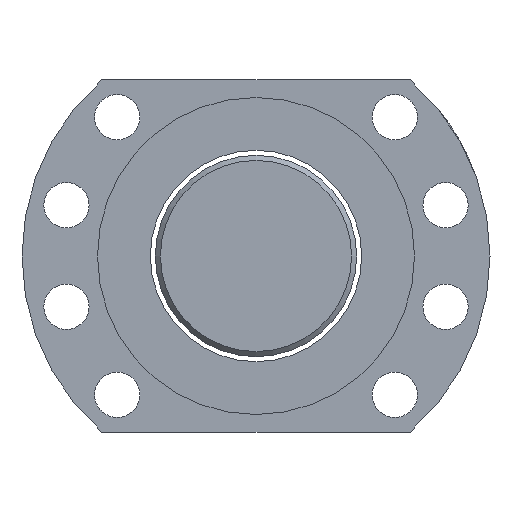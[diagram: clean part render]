
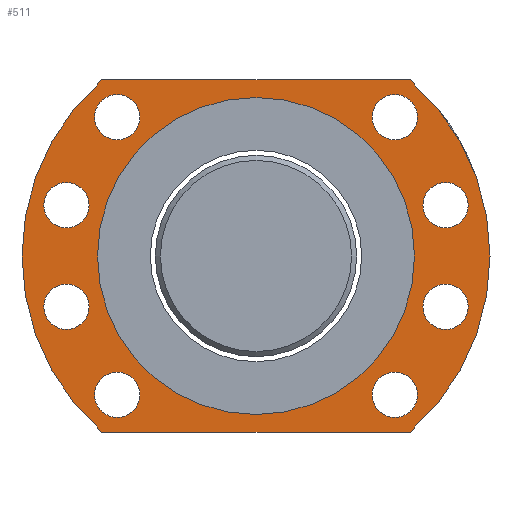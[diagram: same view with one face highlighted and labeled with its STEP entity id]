
A CAD part, left-side view. The second image highlights one B-rep face of the part: STEP entity #511.
In plain terms, the highlighted planar face has unit normal (-1, 0, 0).
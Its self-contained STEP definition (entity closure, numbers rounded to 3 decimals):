
#61=LINE('',#893,#69);
#62=LINE('',#894,#70);
#69=VECTOR('',#726,1000.);
#70=VECTOR('',#727,1000.);
#81=PLANE('',#600);
#149=ORIENTED_EDGE('',*,*,#228,.T.);
#150=ORIENTED_EDGE('',*,*,#230,.F.);
#151=ORIENTED_EDGE('',*,*,#234,.T.);
#152=ORIENTED_EDGE('',*,*,#245,.F.);
#153=ORIENTED_EDGE('',*,*,#250,.T.);
#154=ORIENTED_EDGE('',*,*,#251,.T.);
#155=ORIENTED_EDGE('',*,*,#220,.T.);
#156=ORIENTED_EDGE('',*,*,#252,.T.);
#157=ORIENTED_EDGE('',*,*,#242,.F.);
#158=ORIENTED_EDGE('',*,*,#240,.F.);
#159=ORIENTED_EDGE('',*,*,#238,.F.);
#160=ORIENTED_EDGE('',*,*,#236,.T.);
#161=ORIENTED_EDGE('',*,*,#232,.T.);
#220=EDGE_CURVE('',#272,#274,#317,.T.);
#228=EDGE_CURVE('',#282,#282,#321,.T.);
#230=EDGE_CURVE('',#284,#284,#323,.T.);
#232=EDGE_CURVE('',#286,#286,#325,.T.);
#234=EDGE_CURVE('',#288,#288,#327,.T.);
#236=EDGE_CURVE('',#290,#290,#329,.T.);
#238=EDGE_CURVE('',#292,#292,#331,.T.);
#240=EDGE_CURVE('',#294,#294,#333,.T.);
#242=EDGE_CURVE('',#296,#296,#335,.T.);
#245=EDGE_CURVE('',#299,#299,#338,.T.);
#250=EDGE_CURVE('',#304,#305,#342,.T.);
#251=EDGE_CURVE('',#305,#272,#61,.T.);
#252=EDGE_CURVE('',#274,#304,#62,.T.);
#272=VERTEX_POINT('',#783);
#274=VERTEX_POINT('',#787);
#282=VERTEX_POINT('',#825);
#284=VERTEX_POINT('',#830);
#286=VERTEX_POINT('',#835);
#288=VERTEX_POINT('',#840);
#290=VERTEX_POINT('',#845);
#292=VERTEX_POINT('',#850);
#294=VERTEX_POINT('',#855);
#296=VERTEX_POINT('',#860);
#299=VERTEX_POINT('',#867);
#304=VERTEX_POINT('',#891);
#305=VERTEX_POINT('',#892);
#317=CIRCLE('',#562,46.5);
#321=CIRCLE('',#568,4.5);
#323=CIRCLE('',#571,4.5);
#325=CIRCLE('',#574,4.5);
#327=CIRCLE('',#577,4.5);
#329=CIRCLE('',#580,4.5);
#331=CIRCLE('',#583,4.5);
#333=CIRCLE('',#586,4.5);
#335=CIRCLE('',#589,4.5);
#338=CIRCLE('',#593,31.5);
#342=CIRCLE('',#601,46.5);
#384=EDGE_LOOP('',(#149));
#385=EDGE_LOOP('',(#150));
#386=EDGE_LOOP('',(#151));
#387=EDGE_LOOP('',(#152));
#388=EDGE_LOOP('',(#153,#154,#155,#156));
#389=EDGE_LOOP('',(#157));
#390=EDGE_LOOP('',(#158));
#391=EDGE_LOOP('',(#159));
#392=EDGE_LOOP('',(#160));
#393=EDGE_LOOP('',(#161));
#455=FACE_BOUND('',#384,.T.);
#456=FACE_BOUND('',#385,.T.);
#457=FACE_BOUND('',#386,.T.);
#458=FACE_BOUND('',#387,.T.);
#459=FACE_BOUND('',#388,.T.);
#460=FACE_BOUND('',#389,.T.);
#461=FACE_BOUND('',#390,.T.);
#462=FACE_BOUND('',#391,.T.);
#463=FACE_BOUND('',#392,.T.);
#464=FACE_BOUND('',#393,.T.);
#511=ADVANCED_FACE('',(#455,#456,#457,#458,#459,#460,#461,#462,#463,#464),
#81,.T.);
#562=AXIS2_PLACEMENT_3D('',#788,#646,#647);
#568=AXIS2_PLACEMENT_3D('',#824,#658,#659);
#571=AXIS2_PLACEMENT_3D('',#829,#664,#665);
#574=AXIS2_PLACEMENT_3D('',#834,#670,#671);
#577=AXIS2_PLACEMENT_3D('',#839,#676,#677);
#580=AXIS2_PLACEMENT_3D('',#844,#682,#683);
#583=AXIS2_PLACEMENT_3D('',#849,#688,#689);
#586=AXIS2_PLACEMENT_3D('',#854,#694,#695);
#589=AXIS2_PLACEMENT_3D('',#859,#700,#701);
#593=AXIS2_PLACEMENT_3D('',#866,#708,#709);
#600=AXIS2_PLACEMENT_3D('',#889,#722,#723);
#601=AXIS2_PLACEMENT_3D('',#890,#724,#725);
#646=DIRECTION('',(-1.,0.,0.));
#647=DIRECTION('',(0.,0.,-1.));
#658=DIRECTION('',(1.,0.,0.));
#659=DIRECTION('',(0.,0.,1.));
#664=DIRECTION('',(-1.,0.,0.));
#665=DIRECTION('',(0.,0.,1.));
#670=DIRECTION('',(1.,0.,0.));
#671=DIRECTION('',(0.,0.,1.));
#676=DIRECTION('',(1.,0.,0.));
#677=DIRECTION('',(0.,0.,1.));
#682=DIRECTION('',(1.,0.,0.));
#683=DIRECTION('',(0.,0.,1.));
#688=DIRECTION('',(-1.,0.,0.));
#689=DIRECTION('',(0.,0.,1.));
#694=DIRECTION('',(-1.,0.,0.));
#695=DIRECTION('',(0.,0.,1.));
#700=DIRECTION('',(-1.,0.,0.));
#701=DIRECTION('',(0.,0.,1.));
#708=DIRECTION('',(-1.,0.,0.));
#709=DIRECTION('',(0.,0.,-1.));
#722=DIRECTION('',(-1.,0.,0.));
#723=DIRECTION('',(0.,0.,1.));
#724=DIRECTION('',(-1.,0.,0.));
#725=DIRECTION('',(0.,0.,-1.));
#726=DIRECTION('',(0.,-1.,0.));
#727=DIRECTION('',(0.,1.,0.));
#783=CARTESIAN_POINT('',(-64.187,-23.614,-48.247));
#787=CARTESIAN_POINT('',(-64.187,-23.614,21.753));
#788=CARTESIAN_POINT('',(-64.187,7.001,-13.247));
#824=CARTESIAN_POINT('',(-64.187,-20.577,14.331));
#825=CARTESIAN_POINT('',(-64.187,-20.577,18.831));
#829=CARTESIAN_POINT('',(-64.187,34.578,14.331));
#830=CARTESIAN_POINT('',(-64.187,34.578,18.831));
#834=CARTESIAN_POINT('',(-64.187,-30.67,-3.153));
#835=CARTESIAN_POINT('',(-64.187,-30.67,1.347));
#839=CARTESIAN_POINT('',(-64.187,-30.67,-23.34));
#840=CARTESIAN_POINT('',(-64.187,-30.67,-18.84));
#844=CARTESIAN_POINT('',(-64.187,-20.577,-40.824));
#845=CARTESIAN_POINT('',(-64.187,-20.577,-36.324));
#849=CARTESIAN_POINT('',(-64.187,34.578,-40.824));
#850=CARTESIAN_POINT('',(-64.187,34.578,-36.324));
#854=CARTESIAN_POINT('',(-64.187,44.672,-3.153));
#855=CARTESIAN_POINT('',(-64.187,44.672,1.347));
#859=CARTESIAN_POINT('',(-64.187,44.672,-23.34));
#860=CARTESIAN_POINT('',(-64.187,44.672,-18.84));
#866=CARTESIAN_POINT('',(-64.187,7.001,-13.247));
#867=CARTESIAN_POINT('',(-64.187,7.001,-44.747));
#889=CARTESIAN_POINT('',(-64.187,7.001,-13.247));
#890=CARTESIAN_POINT('',(-64.187,7.001,-13.247));
#891=CARTESIAN_POINT('',(-64.187,37.615,21.753));
#892=CARTESIAN_POINT('',(-64.187,37.615,-48.247));
#893=CARTESIAN_POINT('',(-64.187,37.615,-48.247));
#894=CARTESIAN_POINT('',(-64.187,-23.614,21.753));
